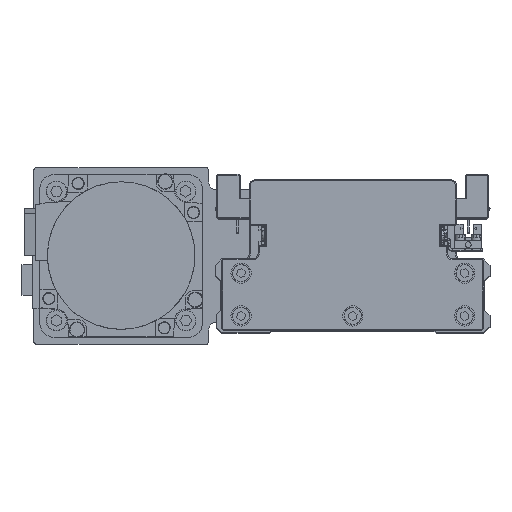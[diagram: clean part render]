
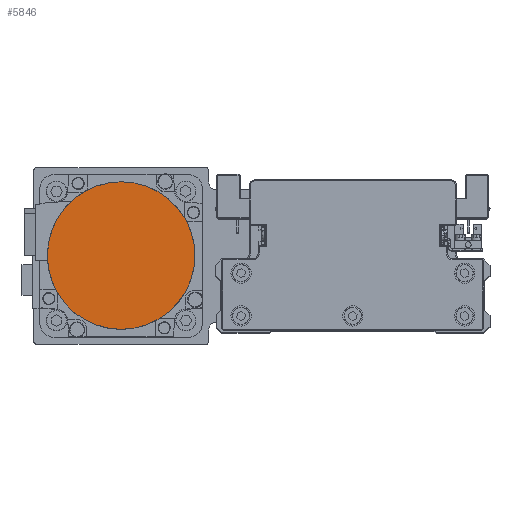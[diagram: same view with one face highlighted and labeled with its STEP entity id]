
A CAD part, top view. The second image highlights one B-rep face of the part: STEP entity #5846.
In plain terms, the highlighted planar face has unit normal (0, 0, 1) as drawn and (0, 0, -1) by its records, which use the part's own axes.
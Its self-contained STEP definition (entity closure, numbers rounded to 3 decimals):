
#499 = EDGE_CURVE ( 'NONE', #27772, #18721, #9559, .T. ) ;
#3055 = DIRECTION ( 'NONE',  ( 0., 1., 0. ) ) ;
#4135 = DIRECTION ( 'NONE',  ( 0., 0., 1. ) ) ;
#5846 = ADVANCED_FACE ( 'NONE', ( #21867 ), #33924, .F. ) ;
#6842 = CARTESIAN_POINT ( 'NONE',  ( 0., 0., -122.2 ) ) ;
#9559 = CIRCLE ( 'NONE', #31660, 36.3 ) ;
#11293 = AXIS2_PLACEMENT_3D ( 'NONE', #18064, #30136, #3055 ) ;
#16175 = DIRECTION ( 'NONE',  ( 0., -1., 0. ) ) ;
#18064 = CARTESIAN_POINT ( 'NONE',  ( 0., 0., -122.2 ) ) ;
#18721 = VERTEX_POINT ( 'NONE', #24667 ) ;
#18897 = DIRECTION ( 'NONE',  ( 0., 0., 1. ) ) ;
#20656 = CARTESIAN_POINT ( 'NONE',  ( 0., -36.3, -122.2 ) ) ;
#21867 = FACE_OUTER_BOUND ( 'NONE', #21912, .T. ) ;
#21912 = EDGE_LOOP ( 'NONE', ( #24788, #38536 ) ) ;
#24281 = AXIS2_PLACEMENT_3D ( 'NONE', #6842, #18897, #30974 ) ;
#24667 = CARTESIAN_POINT ( 'NONE',  ( 0., 36.3, -122.2 ) ) ;
#24788 = ORIENTED_EDGE ( 'NONE', *, *, #24920, .F. ) ;
#24920 = EDGE_CURVE ( 'NONE', #18721, #27772, #28344, .T. ) ;
#27772 = VERTEX_POINT ( 'NONE', #20656 ) ;
#28344 = CIRCLE ( 'NONE', #11293, 36.3 ) ;
#30136 = DIRECTION ( 'NONE',  ( 0., 0., 1. ) ) ;
#30974 = DIRECTION ( 'NONE',  ( 1., 0., 0. ) ) ;
#31225 = CARTESIAN_POINT ( 'NONE',  ( 0., 0., -122.2 ) ) ;
#31660 = AXIS2_PLACEMENT_3D ( 'NONE', #31225, #4135, #16175 ) ;
#33924 = PLANE ( 'NONE',  #24281 ) ;
#38536 = ORIENTED_EDGE ( 'NONE', *, *, #499, .F. ) ;
